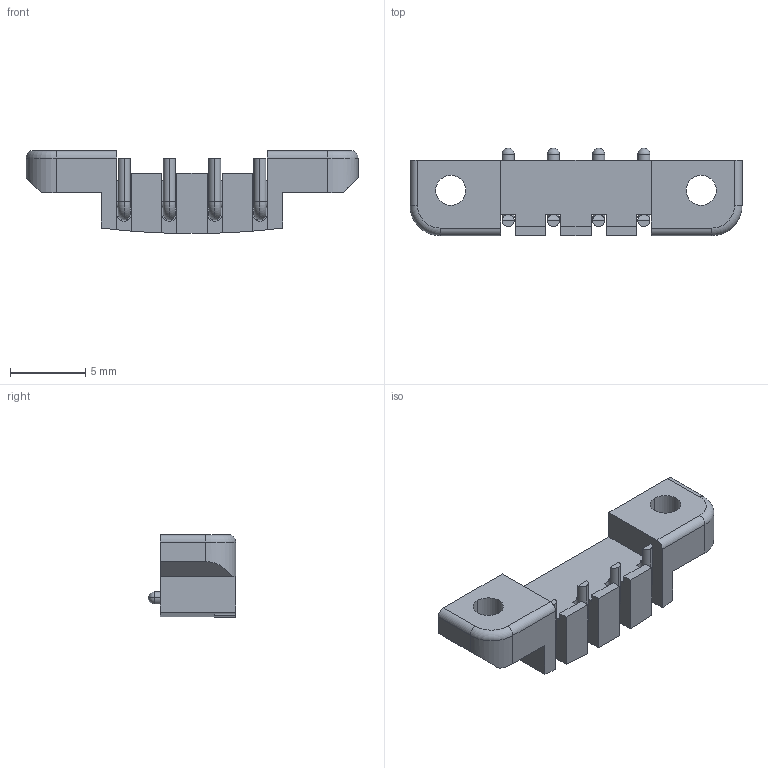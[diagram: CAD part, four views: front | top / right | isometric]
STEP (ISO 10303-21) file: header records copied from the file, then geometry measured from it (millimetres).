
FILE_DESCRIPTION((''),'2;1');
FILE_NAME('MALE20200825_ASM','2020-09-15T',('lenovo'),(''),'PRO/ENGINEER BY PARAMETRIC TECHNOLOGY CORPORATION, 2008380','PRO/ENGINEER BY PARAMETRIC TECHNOLOGY CORPORATION, 2008380','');
FILE_SCHEMA(('CONFIG_CONTROL_DESIGN'));
Length unit declared in the file: millimetre
Products named in the file (3): HOUSING; POGOPIN; MALE20200825_ASM
Assembly tree (5 placements, depth 2):
  MALE20200825_ASM
    HOUSING
    POGOPIN  x4
Bounding box: 22 x 5.8 x 5.5 mm (x, y, z)
Volume: 323.9 mm3; surface area: 646.7 mm2
Topology: 5 solids, 5 shells, 166 faces, 408 edges, 256 vertices
Faces by surface type: plane 77, cylinder 63, torus 18, sphere 8
Entity records: 3292 total; most frequent: CARTESIAN_POINT 591, DIRECTION 561, ORIENTED_EDGE 536, EDGE_CURVE 268, AXIS2_PLACEMENT_3D 190, VECTOR 181, LINE 181, VERTEX_POINT 175
